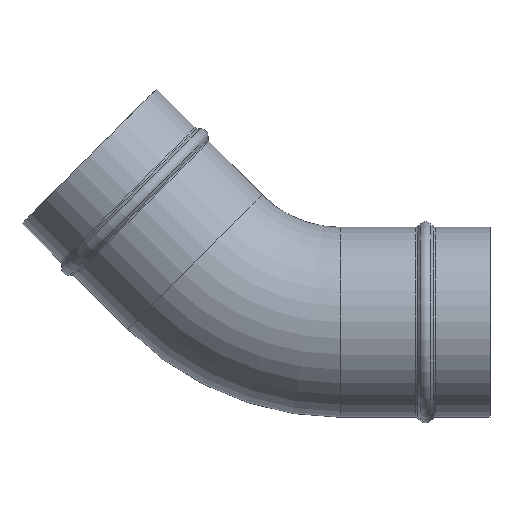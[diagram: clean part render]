
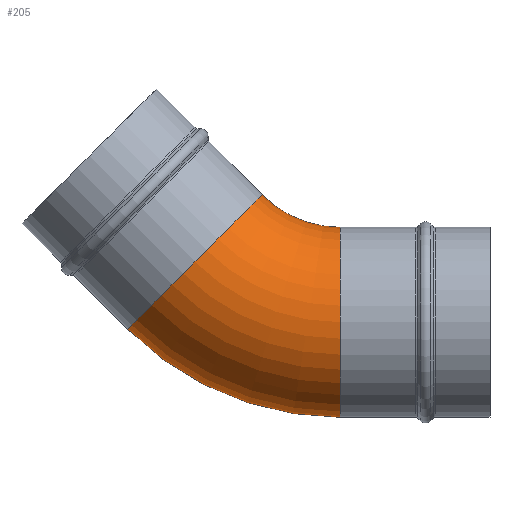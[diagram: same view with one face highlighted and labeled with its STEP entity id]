
A CAD part, top view. The second image highlights one B-rep face of the part: STEP entity #205.
In plain terms, the highlighted toroidal (fillet/blend) face has major radius 110 mm and minor radius 50.8 mm.
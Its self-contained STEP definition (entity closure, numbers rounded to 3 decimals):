
#205=ADVANCED_FACE('',(#295),#267,.T.);
#267=TOROIDAL_SURFACE('',#994,110.,50.8);
#295=FACE_OUTER_BOUND('',#355,.T.);
#355=EDGE_LOOP('',(#419,#420,#421,#422,#423,#424));
#419=ORIENTED_EDGE('',*,*,#755,.T.);
#420=ORIENTED_EDGE('',*,*,#756,.T.);
#421=ORIENTED_EDGE('',*,*,#757,.T.);
#422=ORIENTED_EDGE('',*,*,#758,.F.);
#423=ORIENTED_EDGE('',*,*,#759,.F.);
#424=ORIENTED_EDGE('',*,*,#760,.F.);
#683=VERTEX_POINT('',#1510);
#684=VERTEX_POINT('',#1511);
#685=VERTEX_POINT('',#1513);
#686=VERTEX_POINT('',#1515);
#687=VERTEX_POINT('',#1517);
#688=VERTEX_POINT('',#1519);
#755=EDGE_CURVE('',#683,#684,#887,.T.);
#756=EDGE_CURVE('',#684,#685,#888,.T.);
#757=EDGE_CURVE('',#685,#686,#889,.T.);
#758=EDGE_CURVE('',#687,#686,#890,.T.);
#759=EDGE_CURVE('',#688,#687,#891,.T.);
#760=EDGE_CURVE('',#683,#688,#892,.T.);
#887=CIRCLE('',#988,50.8);
#888=CIRCLE('',#989,50.8);
#889=CIRCLE('',#990,160.8);
#890=CIRCLE('',#991,50.8);
#891=CIRCLE('',#992,50.8);
#892=CIRCLE('',#993,59.2);
#988=AXIS2_PLACEMENT_3D('',#1509,#1152,#1153);
#989=AXIS2_PLACEMENT_3D('',#1512,#1154,#1155);
#990=AXIS2_PLACEMENT_3D('',#1514,#1156,#1157);
#991=AXIS2_PLACEMENT_3D('',#1516,#1158,#1159);
#992=AXIS2_PLACEMENT_3D('',#1518,#1160,#1161);
#993=AXIS2_PLACEMENT_3D('',#1520,#1162,#1163);
#994=AXIS2_PLACEMENT_3D('',#1521,#1164,#1165);
#1152=DIRECTION('',(0.707,-0.707,0.));
#1153=DIRECTION('',(0.707,0.707,0.));
#1154=DIRECTION('',(0.707,-0.707,0.));
#1155=DIRECTION('',(0.,0.,1.));
#1156=DIRECTION('',(0.,0.,1.));
#1157=DIRECTION('',(-0.707,-0.707,0.));
#1158=DIRECTION('',(1.,0.,0.));
#1159=DIRECTION('',(0.,0.,1.));
#1160=DIRECTION('',(1.,0.,0.));
#1161=DIRECTION('',(0.,1.,0.));
#1162=DIRECTION('',(0.,0.,1.));
#1163=DIRECTION('',(-0.707,-0.707,0.));
#1164=DIRECTION('',(0.,0.,1.));
#1165=DIRECTION('',(-0.707,-0.707,0.));
#1509=CARTESIAN_POINT('',(-77.782,-77.782,0.));
#1510=CARTESIAN_POINT('',(-41.861,-41.861,0.));
#1511=CARTESIAN_POINT('',(-77.782,-77.782,50.8));
#1512=CARTESIAN_POINT('',(-77.782,-77.782,0.));
#1513=CARTESIAN_POINT('',(-113.703,-113.703,0.));
#1514=CARTESIAN_POINT('',(0.,0.,0.));
#1515=CARTESIAN_POINT('',(0.,-160.8,0.));
#1516=CARTESIAN_POINT('',(0.,-110.,0.));
#1517=CARTESIAN_POINT('',(0.,-110.,50.8));
#1518=CARTESIAN_POINT('',(0.,-110.,0.));
#1519=CARTESIAN_POINT('',(0.,-59.2,0.));
#1520=CARTESIAN_POINT('',(0.,0.,0.));
#1521=CARTESIAN_POINT('',(0.,0.,0.));
